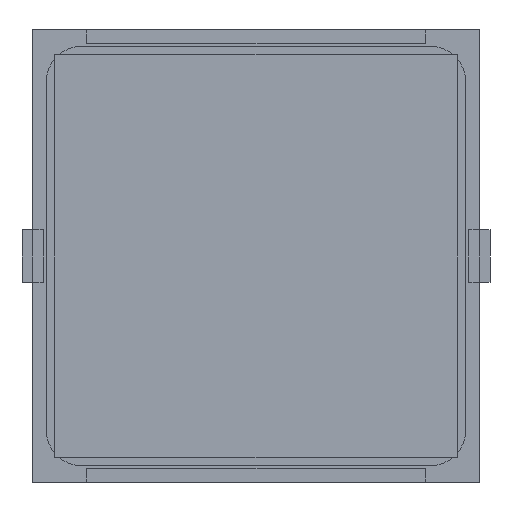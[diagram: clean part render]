
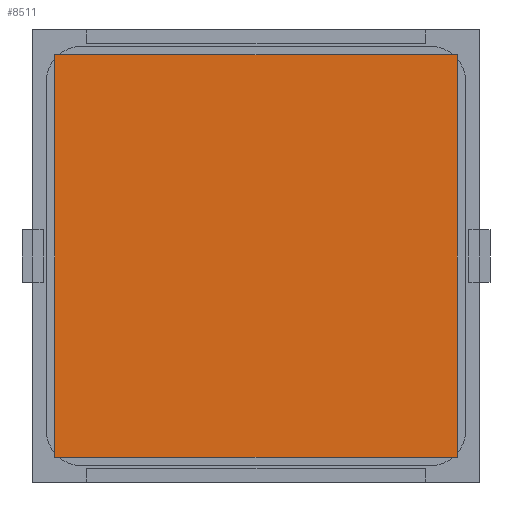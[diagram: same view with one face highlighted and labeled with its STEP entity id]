
A CAD part, front view. The second image highlights one B-rep face of the part: STEP entity #8511.
In plain terms, the highlighted planar face has unit normal (0, -1, 0).
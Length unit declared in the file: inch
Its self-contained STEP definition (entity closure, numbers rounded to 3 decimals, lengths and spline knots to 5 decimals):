
#282 = ORIENTED_EDGE ( 'NONE', *, *, #6636, .F. ) ;
#313 = CARTESIAN_POINT ( 'NONE',  ( -0.74803, -0.005, 0.74803 ) ) ;
#860 = VECTOR ( 'NONE', #10843, 39.37008 ) ;
#1088 = DIRECTION ( 'NONE',  ( 0., 0., 1. ) ) ;
#1145 = FACE_OUTER_BOUND ( 'NONE', #7289, .T. ) ;
#1184 = CARTESIAN_POINT ( 'NONE',  ( 0.74803, -0.005, 0.74803 ) ) ;
#1376 = CARTESIAN_POINT ( 'NONE',  ( -0.74803, -0.005, -0.74803 ) ) ;
#1973 = VERTEX_POINT ( 'NONE', #313 ) ;
#2083 = ORIENTED_EDGE ( 'NONE', *, *, #10414, .F. ) ;
#2168 = ORIENTED_EDGE ( 'NONE', *, *, #2282, .F. ) ;
#2282 = EDGE_CURVE ( 'NONE', #9699, #4692, #9633, .T. ) ;
#2615 = DIRECTION ( 'NONE',  ( 1., 0., 0. ) ) ;
#2789 = LINE ( 'NONE', #6601, #4537 ) ;
#3028 = CARTESIAN_POINT ( 'NONE',  ( 0.74803, -0.005, -0.74803 ) ) ;
#3443 = CARTESIAN_POINT ( 'NONE',  ( -0.74803, -0.005, -0.74803 ) ) ;
#3778 = AXIS2_PLACEMENT_3D ( 'NONE', #10417, #6526, #1088 ) ;
#4162 = LINE ( 'NONE', #3443, #860 ) ;
#4463 = VECTOR ( 'NONE', #10534, 39.37008 ) ;
#4537 = VECTOR ( 'NONE', #4545, 39.37008 ) ;
#4545 = DIRECTION ( 'NONE',  ( -1., 0., 0. ) ) ;
#4692 = VERTEX_POINT ( 'NONE', #3028 ) ;
#4714 = PLANE ( 'NONE',  #3778 ) ;
#6100 = CARTESIAN_POINT ( 'NONE',  ( 0.74803, -0.005, -0.74803 ) ) ;
#6526 = DIRECTION ( 'NONE',  ( 0., 1., 0. ) ) ;
#6601 = CARTESIAN_POINT ( 'NONE',  ( -0.74803, -0.005, -0.74803 ) ) ;
#6636 = EDGE_CURVE ( 'NONE', #4692, #9424, #2789, .T. ) ;
#7289 = EDGE_LOOP ( 'NONE', ( #2083, #282, #2168, #8543 ) ) ;
#8363 = EDGE_CURVE ( 'NONE', #1973, #9699, #9170, .T. ) ;
#8511 = ADVANCED_FACE ( 'NONE', ( #1145 ), #4714, .F. ) ;
#8543 = ORIENTED_EDGE ( 'NONE', *, *, #8363, .F. ) ;
#9170 = LINE ( 'NONE', #11845, #10540 ) ;
#9424 = VERTEX_POINT ( 'NONE', #1376 ) ;
#9633 = LINE ( 'NONE', #6100, #4463 ) ;
#9699 = VERTEX_POINT ( 'NONE', #1184 ) ;
#10414 = EDGE_CURVE ( 'NONE', #9424, #1973, #4162, .T. ) ;
#10417 = CARTESIAN_POINT ( 'NONE',  ( -0.74803, -0.005, 0.74803 ) ) ;
#10534 = DIRECTION ( 'NONE',  ( 0., 0., -1. ) ) ;
#10540 = VECTOR ( 'NONE', #2615, 39.37008 ) ;
#10843 = DIRECTION ( 'NONE',  ( 0., 0., 1. ) ) ;
#11845 = CARTESIAN_POINT ( 'NONE',  ( -0.74803, -0.005, 0.74803 ) ) ;
